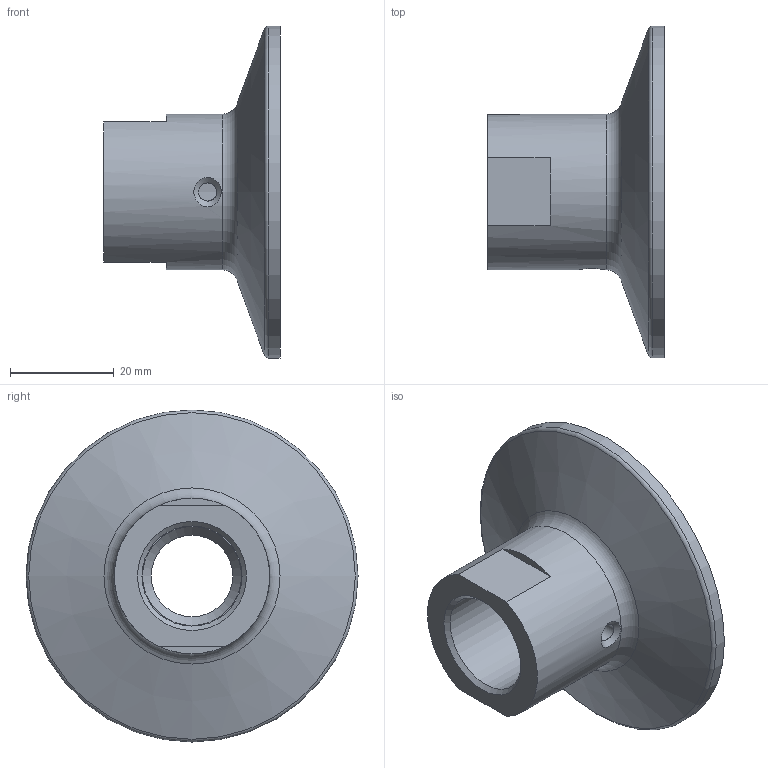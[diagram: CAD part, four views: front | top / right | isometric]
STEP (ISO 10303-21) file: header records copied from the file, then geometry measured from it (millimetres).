
FILE_DESCRIPTION( ( 'Unknown' ), '1' );
FILE_NAME( 'F:/U_Proces/dokumentation new/Mechanical parts/7000 3D Step filer/7000-/7000146/CAM023.640.stp', 'Unknown', ( 'Unknown' ), ( 'Unknown' ), 'PSStep 13.0', 'Unknown', ' ' );
FILE_SCHEMA( ( 'AUTOMOTIVE_DESIGN { 1 0 10303 214 1 1 1 1 }' ) );
Length unit declared in the file: millimetre
Products named in the file (1): 1
Bounding box: 34 x 64 x 64 mm (x, y, z)
Surface area: 11375.2 mm2 (no closed solid volume)
Topology: 0 solids, 23 shells, 23 faces, 83 edges, 69 vertices
Faces by surface type: plane 9, cylinder 5, cone 5, torus 3, bspline 1
Full cylindrical faces by diameter (mm): 3.5 x1, 19.1 x1, 19.3 x1, 30 x1, 64 x1
Entity records: 1232 total; most frequent: CARTESIAN_POINT 425, DIRECTION 142, AXIS2_PLACEMENT_3D 63, ORIENTED_EDGE 62, EDGE_CURVE 62, VERTEX_POINT 62, FACE_BOUND 44, EDGE_LOOP 44
